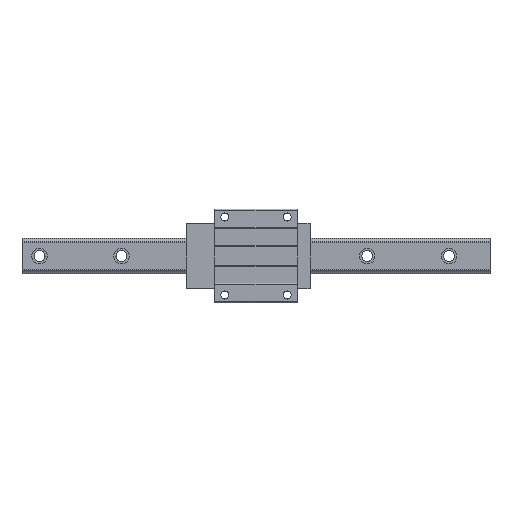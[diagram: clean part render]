
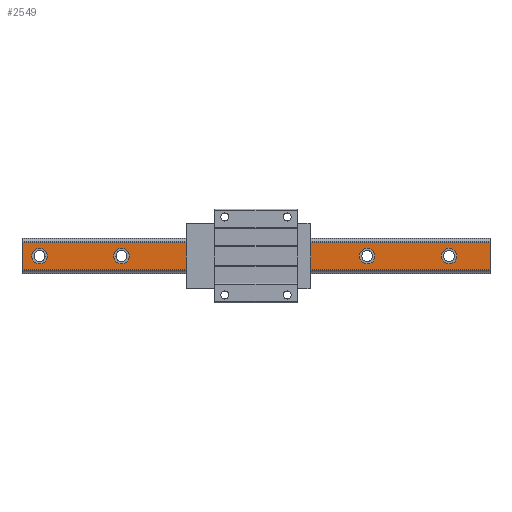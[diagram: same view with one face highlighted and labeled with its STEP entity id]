
A CAD part, top view. The second image highlights one B-rep face of the part: STEP entity #2549.
In plain terms, the highlighted planar face has unit normal (0, 0, 1).
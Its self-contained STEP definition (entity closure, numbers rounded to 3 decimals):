
#74 = AXIS2_PLACEMENT_3D ( 'NONE', #7181, #2047, #5521 ) ;
#76 = VERTEX_POINT ( 'NONE', #4490 ) ;
#102 = ORIENTED_EDGE ( 'NONE', *, *, #4980, .T. ) ;
#114 = CIRCLE ( 'NONE', #3357, 10. ) ;
#193 = DIRECTION ( 'NONE',  ( 0., 0., 1. ) ) ;
#215 = CIRCLE ( 'NONE', #3566, 10. ) ;
#233 = CARTESIAN_POINT ( 'NONE',  ( 47.5, 0., 32. ) ) ;
#248 = DIRECTION ( 'NONE',  ( 0., 0., 1. ) ) ;
#350 = AXIS2_PLACEMENT_3D ( 'NONE', #738, #6345, #2525 ) ;
#422 = EDGE_CURVE ( 'NONE', #1875, #7119, #6183, .T. ) ;
#432 = CARTESIAN_POINT ( 'NONE',  ( 300., -17.738, 32. ) ) ;
#475 = ORIENTED_EDGE ( 'NONE', *, *, #5789, .F. ) ;
#533 = VERTEX_POINT ( 'NONE', #6759 ) ;
#548 = EDGE_CURVE ( 'NONE', #3195, #7117, #114, .T. ) ;
#596 = DIRECTION ( 'NONE',  ( 0., -1., 0. ) ) ;
#680 = EDGE_CURVE ( 'NONE', #533, #2823, #3121, .T. ) ;
#738 = CARTESIAN_POINT ( 'NONE',  ( 247.5, 0., 32. ) ) ;
#846 = VERTEX_POINT ( 'NONE', #1105 ) ;
#928 = VERTEX_POINT ( 'NONE', #5728 ) ;
#939 = ORIENTED_EDGE ( 'NONE', *, *, #5569, .F. ) ;
#1027 = DIRECTION ( 'NONE',  ( 1., 0., 0. ) ) ;
#1081 = AXIS2_PLACEMENT_3D ( 'NONE', #6404, #5704, #596 ) ;
#1095 = VERTEX_POINT ( 'NONE', #4582 ) ;
#1102 = DIRECTION ( 'NONE',  ( 1., 0., 0. ) ) ;
#1105 = CARTESIAN_POINT ( 'NONE',  ( -77.5, 0., 32. ) ) ;
#1167 = DIRECTION ( 'NONE',  ( 0., -1., 0. ) ) ;
#1288 = VERTEX_POINT ( 'NONE', #3133 ) ;
#1436 = ORIENTED_EDGE ( 'NONE', *, *, #6711, .F. ) ;
#1544 = AXIS2_PLACEMENT_3D ( 'NONE', #3152, #3674, #2537 ) ;
#1587 = VERTEX_POINT ( 'NONE', #432 ) ;
#1600 = LINE ( 'NONE', #3305, #4048 ) ;
#1616 = ORIENTED_EDGE ( 'NONE', *, *, #3936, .T. ) ;
#1802 = CARTESIAN_POINT ( 'NONE',  ( -67.5, 0., 32. ) ) ;
#1875 = VERTEX_POINT ( 'NONE', #233 ) ;
#1949 = LINE ( 'NONE', #7128, #4445 ) ;
#1962 = VERTEX_POINT ( 'NONE', #4842 ) ;
#2013 = CIRCLE ( 'NONE', #350, 10. ) ;
#2047 = DIRECTION ( 'NONE',  ( 0., 0., 1. ) ) ;
#2104 = EDGE_LOOP ( 'NONE', ( #2712, #939 ) ) ;
#2114 = DIRECTION ( 'NONE',  ( 0., 0., 1. ) ) ;
#2222 = LINE ( 'NONE', #6758, #4168 ) ;
#2254 = EDGE_LOOP ( 'NONE', ( #3056, #2693 ) ) ;
#2298 = EDGE_CURVE ( 'NONE', #1587, #4451, #1949, .T. ) ;
#2357 = CIRCLE ( 'NONE', #6530, 10. ) ;
#2434 = EDGE_LOOP ( 'NONE', ( #5656, #3577 ) ) ;
#2520 = EDGE_LOOP ( 'NONE', ( #1616, #2866, #7101, #102 ) ) ;
#2525 = DIRECTION ( 'NONE',  ( 1., 0., 0. ) ) ;
#2537 = DIRECTION ( 'NONE',  ( 1., 0., 0. ) ) ;
#2549 = ADVANCED_FACE ( 'NONE', ( #4645, #2961, #6363, #6964, #3522, #6882, #4127 ), #4166, .F. ) ;
#2621 = EDGE_CURVE ( 'NONE', #7117, #3195, #6790, .T. ) ;
#2663 = DIRECTION ( 'NONE',  ( -1., 0., 0. ) ) ;
#2693 = ORIENTED_EDGE ( 'NONE', *, *, #4633, .F. ) ;
#2712 = ORIENTED_EDGE ( 'NONE', *, *, #2785, .F. ) ;
#2785 = EDGE_CURVE ( 'NONE', #1288, #1095, #2898, .T. ) ;
#2823 = VERTEX_POINT ( 'NONE', #4266 ) ;
#2866 = ORIENTED_EDGE ( 'NONE', *, *, #2298, .F. ) ;
#2898 = CIRCLE ( 'NONE', #4224, 10. ) ;
#2925 = ORIENTED_EDGE ( 'NONE', *, *, #422, .F. ) ;
#2932 = CARTESIAN_POINT ( 'NONE',  ( -67.5, 0., 32. ) ) ;
#2961 = FACE_BOUND ( 'NONE', #6003, .T. ) ;
#2963 = CIRCLE ( 'NONE', #7225, 10. ) ;
#3056 = ORIENTED_EDGE ( 'NONE', *, *, #4572, .F. ) ;
#3100 = DIRECTION ( 'NONE',  ( 1., 0., 0. ) ) ;
#3110 = DIRECTION ( 'NONE',  ( 0., 0., 1. ) ) ;
#3121 = CIRCLE ( 'NONE', #4427, 10. ) ;
#3133 = CARTESIAN_POINT ( 'NONE',  ( -267.5, 0., 32. ) ) ;
#3152 = CARTESIAN_POINT ( 'NONE',  ( 37.5, 0., 32. ) ) ;
#3195 = VERTEX_POINT ( 'NONE', #6439 ) ;
#3237 = DIRECTION ( 'NONE',  ( 0., -1., 0. ) ) ;
#3249 = EDGE_LOOP ( 'NONE', ( #4128, #1436 ) ) ;
#3305 = CARTESIAN_POINT ( 'NONE',  ( 300., 17.738, 32. ) ) ;
#3357 = AXIS2_PLACEMENT_3D ( 'NONE', #7248, #6172, #5622 ) ;
#3497 = DIRECTION ( 'NONE',  ( 1., 0., 0. ) ) ;
#3522 = FACE_BOUND ( 'NONE', #2254, .T. ) ;
#3566 = AXIS2_PLACEMENT_3D ( 'NONE', #1802, #4112, #1102 ) ;
#3577 = ORIENTED_EDGE ( 'NONE', *, *, #680, .F. ) ;
#3674 = DIRECTION ( 'NONE',  ( 0., 0., 1. ) ) ;
#3752 = CARTESIAN_POINT ( 'NONE',  ( 37.5, 0., 32. ) ) ;
#3772 = CARTESIAN_POINT ( 'NONE',  ( -57.5, 0., 32. ) ) ;
#3869 = LINE ( 'NONE', #5531, #3913 ) ;
#3913 = VECTOR ( 'NONE', #3237, 1000. ) ;
#3936 = EDGE_CURVE ( 'NONE', #1962, #4451, #3869, .T. ) ;
#4048 = VECTOR ( 'NONE', #6566, 1000. ) ;
#4112 = DIRECTION ( 'NONE',  ( 0., 0., 1. ) ) ;
#4119 = ORIENTED_EDGE ( 'NONE', *, *, #2621, .F. ) ;
#4127 = FACE_OUTER_BOUND ( 'NONE', #2520, .T. ) ;
#4128 = ORIENTED_EDGE ( 'NONE', *, *, #4941, .F. ) ;
#4134 = EDGE_CURVE ( 'NONE', #2823, #533, #2013, .T. ) ;
#4150 = CARTESIAN_POINT ( 'NONE',  ( 247.5, 0., 32. ) ) ;
#4166 = PLANE ( 'NONE',  #1081 ) ;
#4168 = VECTOR ( 'NONE', #1167, 1000. ) ;
#4187 = CARTESIAN_POINT ( 'NONE',  ( -277.5, 0., 32. ) ) ;
#4224 = AXIS2_PLACEMENT_3D ( 'NONE', #4187, #248, #3100 ) ;
#4263 = EDGE_LOOP ( 'NONE', ( #2925, #475 ) ) ;
#4266 = CARTESIAN_POINT ( 'NONE',  ( 257.5, 0., 32. ) ) ;
#4427 = AXIS2_PLACEMENT_3D ( 'NONE', #4150, #6388, #6312 ) ;
#4445 = VECTOR ( 'NONE', #2663, 1000. ) ;
#4451 = VERTEX_POINT ( 'NONE', #6434 ) ;
#4490 = CARTESIAN_POINT ( 'NONE',  ( 132.5, 0., 32. ) ) ;
#4540 = CARTESIAN_POINT ( 'NONE',  ( -277.5, 0., 32. ) ) ;
#4572 = EDGE_CURVE ( 'NONE', #928, #76, #2963, .T. ) ;
#4582 = CARTESIAN_POINT ( 'NONE',  ( -287.5, 0., 32. ) ) ;
#4587 = CARTESIAN_POINT ( 'NONE',  ( -172.5, 0., 32. ) ) ;
#4613 = DIRECTION ( 'NONE',  ( 1., 0., 0. ) ) ;
#4633 = EDGE_CURVE ( 'NONE', #76, #928, #5101, .T. ) ;
#4645 = FACE_BOUND ( 'NONE', #2104, .T. ) ;
#4726 = CARTESIAN_POINT ( 'NONE',  ( 300., 17.738, 32. ) ) ;
#4735 = CIRCLE ( 'NONE', #7202, 10. ) ;
#4820 = EDGE_CURVE ( 'NONE', #6825, #1587, #2222, .T. ) ;
#4842 = CARTESIAN_POINT ( 'NONE',  ( -300., 17.738, 32. ) ) ;
#4941 = EDGE_CURVE ( 'NONE', #7132, #846, #215, .T. ) ;
#4980 = EDGE_CURVE ( 'NONE', #6825, #1962, #1600, .T. ) ;
#5008 = AXIS2_PLACEMENT_3D ( 'NONE', #3752, #3110, #5918 ) ;
#5101 = CIRCLE ( 'NONE', #74, 10. ) ;
#5510 = AXIS2_PLACEMENT_3D ( 'NONE', #4587, #6279, #6171 ) ;
#5521 = DIRECTION ( 'NONE',  ( 1., 0., 0. ) ) ;
#5531 = CARTESIAN_POINT ( 'NONE',  ( -300., -17.738, 32. ) ) ;
#5569 = EDGE_CURVE ( 'NONE', #1095, #1288, #2357, .T. ) ;
#5622 = DIRECTION ( 'NONE',  ( 1., 0., 0. ) ) ;
#5656 = ORIENTED_EDGE ( 'NONE', *, *, #4134, .F. ) ;
#5704 = DIRECTION ( 'NONE',  ( 0., 0., -1. ) ) ;
#5728 = CARTESIAN_POINT ( 'NONE',  ( 152.5, 0., 32. ) ) ;
#5789 = EDGE_CURVE ( 'NONE', #7119, #1875, #7234, .T. ) ;
#5918 = DIRECTION ( 'NONE',  ( 1., 0., 0. ) ) ;
#5981 = CARTESIAN_POINT ( 'NONE',  ( -182.5, 0., 32. ) ) ;
#6003 = EDGE_LOOP ( 'NONE', ( #7094, #4119 ) ) ;
#6086 = CARTESIAN_POINT ( 'NONE',  ( 27.5, 0., 32. ) ) ;
#6171 = DIRECTION ( 'NONE',  ( 1., 0., 0. ) ) ;
#6172 = DIRECTION ( 'NONE',  ( 0., 0., 1. ) ) ;
#6183 = CIRCLE ( 'NONE', #1544, 10. ) ;
#6279 = DIRECTION ( 'NONE',  ( 0., 0., 1. ) ) ;
#6312 = DIRECTION ( 'NONE',  ( 1., 0., 0. ) ) ;
#6345 = DIRECTION ( 'NONE',  ( 0., 0., 1. ) ) ;
#6363 = FACE_BOUND ( 'NONE', #3249, .T. ) ;
#6388 = DIRECTION ( 'NONE',  ( 0., 0., 1. ) ) ;
#6404 = CARTESIAN_POINT ( 'NONE',  ( 300., -17.738, 32. ) ) ;
#6434 = CARTESIAN_POINT ( 'NONE',  ( -300., -17.738, 32. ) ) ;
#6439 = CARTESIAN_POINT ( 'NONE',  ( -162.5, 0., 32. ) ) ;
#6530 = AXIS2_PLACEMENT_3D ( 'NONE', #4540, #6779, #3497 ) ;
#6566 = DIRECTION ( 'NONE',  ( -1., 0., 0. ) ) ;
#6711 = EDGE_CURVE ( 'NONE', #846, #7132, #4735, .T. ) ;
#6758 = CARTESIAN_POINT ( 'NONE',  ( 300., -17.738, 32. ) ) ;
#6759 = CARTESIAN_POINT ( 'NONE',  ( 237.5, 0., 32. ) ) ;
#6779 = DIRECTION ( 'NONE',  ( 0., 0., 1. ) ) ;
#6790 = CIRCLE ( 'NONE', #5510, 10. ) ;
#6825 = VERTEX_POINT ( 'NONE', #4726 ) ;
#6882 = FACE_BOUND ( 'NONE', #2434, .T. ) ;
#6964 = FACE_BOUND ( 'NONE', #4263, .T. ) ;
#7094 = ORIENTED_EDGE ( 'NONE', *, *, #548, .F. ) ;
#7101 = ORIENTED_EDGE ( 'NONE', *, *, #4820, .F. ) ;
#7117 = VERTEX_POINT ( 'NONE', #5981 ) ;
#7119 = VERTEX_POINT ( 'NONE', #6086 ) ;
#7128 = CARTESIAN_POINT ( 'NONE',  ( 300., -17.738, 32. ) ) ;
#7132 = VERTEX_POINT ( 'NONE', #3772 ) ;
#7181 = CARTESIAN_POINT ( 'NONE',  ( 142.5, 0., 32. ) ) ;
#7202 = AXIS2_PLACEMENT_3D ( 'NONE', #2932, #193, #4613 ) ;
#7225 = AXIS2_PLACEMENT_3D ( 'NONE', #7247, #2114, #1027 ) ;
#7234 = CIRCLE ( 'NONE', #5008, 10. ) ;
#7247 = CARTESIAN_POINT ( 'NONE',  ( 142.5, 0., 32. ) ) ;
#7248 = CARTESIAN_POINT ( 'NONE',  ( -172.5, 0., 32. ) ) ;
